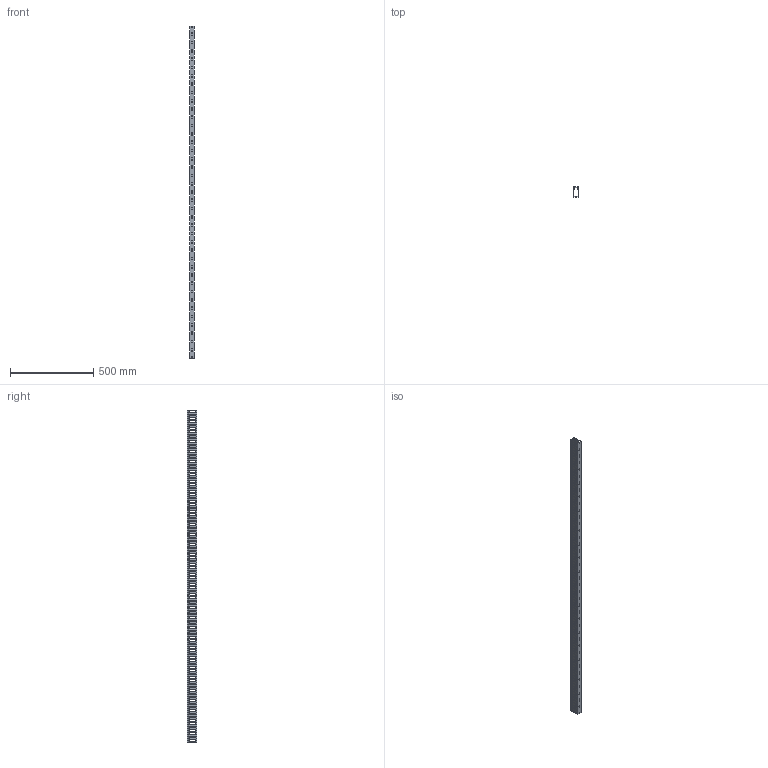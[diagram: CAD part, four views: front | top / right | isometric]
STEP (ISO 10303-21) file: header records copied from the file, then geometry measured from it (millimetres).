
FILE_DESCRIPTION (( 'STEP AP214' ), '1' );
FILE_NAME ('KD-36-20-H.STEP', '2020-02-19T00:14:17', ( '' ), ( '' ), 'SwSTEP 2.0', 'SolidWorks 2018', '' );
FILE_SCHEMA (( 'AUTOMOTIVE_DESIGN' ));
Length unit declared in the file: millimetre
Products named in the file (3): KD-36-20-H-body; KD-34-20-cover; KD-36-20-H
Assembly tree (2 placements, depth 2):
  KD-36-20-H
    KD-36-20-H-body
    KD-34-20-cover
Bounding box: 30 x 60.17 x 2000 mm (x, y, z)
Volume: 560800.7 mm3; surface area: 751931.6 mm2
Topology: 2 solids, 2 shells, 1866 faces, 5586 edges, 3724 vertices
Faces by surface type: cylinder 954, plane 912
Entity records: 64464 total; most frequent: DIRECTION 11236, CARTESIAN_POINT 11181, ORIENTED_EDGE 11172, EDGE_CURVE 5586, AXIS2_PLACEMENT_3D 3779, VERTEX_POINT 3724, LINE 3678, VECTOR 3678
